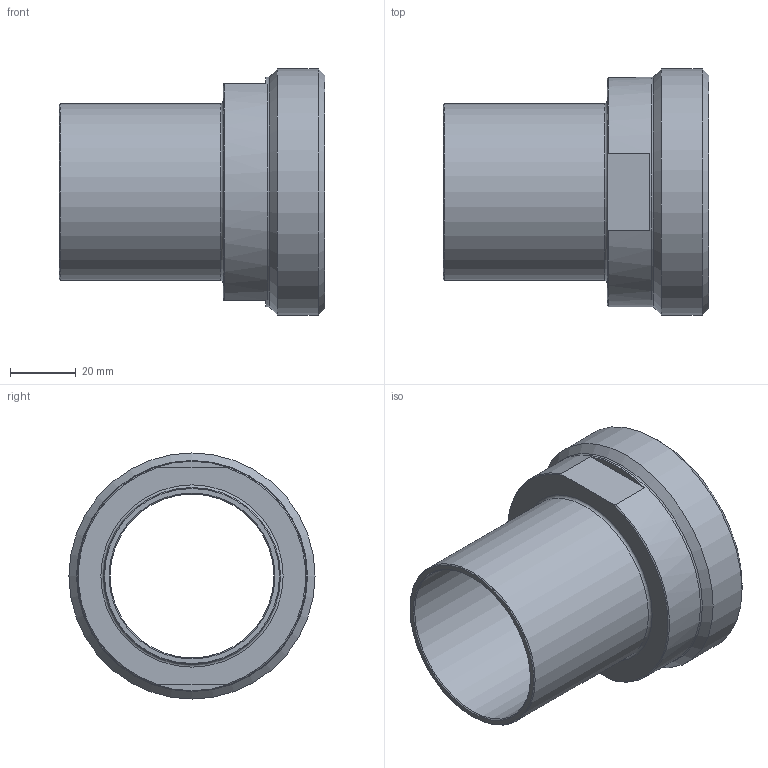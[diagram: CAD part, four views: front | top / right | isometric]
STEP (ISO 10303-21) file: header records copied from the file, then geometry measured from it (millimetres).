
FILE_DESCRIPTION(/* description */ (''),/* implementation_level */ '2;1');
FILE_NAME(/* name */ 'C:\Users\cad\Desktop\Zeichnungen neu von Ralph\3D_Kupplung_R666-PG\3D_R666-PG-54-DN65_17113691.stp',/* time_stamp */ '2021-06-23T15:53:21+02:00',/* author */ ('cad'),/* organization */ (''),/* preprocessor_version */ 'ST-DEVELOPER v18.1',/* originating_system */ 'Autodesk Inventor 2022',/* authorisation */ '');
FILE_SCHEMA (('AUTOMOTIVE_DESIGN { 1 0 10303 214 3 1 1 }'));
Length unit declared in the file: millimetre
Products named in the file (1): 3D_R666-PG-54-DN65_17113691
Bounding box: 81 x 75.1 x 75.1 mm (x, y, z)
Volume: 82620.8 mm3; surface area: 32392.3 mm2
Topology: 1 solids, 1 shells, 20 faces, 50 edges, 33 vertices
Faces by surface type: plane 7, cone 7, cylinder 4, torus 2
Full cylindrical faces by diameter (mm): 50 x1, 54 x1, 70 x1, 75.1 x1
Entity records: 656 total; most frequent: DIRECTION 117, CARTESIAN_POINT 112, ORIENTED_EDGE 100, EDGE_CURVE 50, AXIS2_PLACEMENT_3D 50, VERTEX_POINT 33, CIRCLE 29, EDGE_LOOP 23
